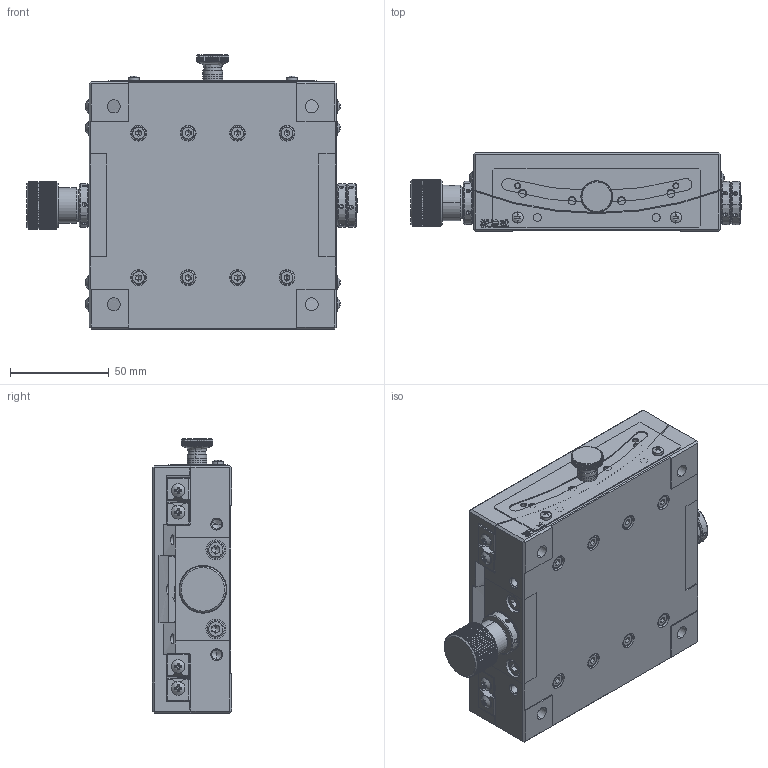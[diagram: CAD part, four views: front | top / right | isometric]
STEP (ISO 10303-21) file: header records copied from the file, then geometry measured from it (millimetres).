
FILE_DESCRIPTION (( 'STEP AP214' ), '1' );
FILE_NAME ('PT-SD3144.STEP', '2022-11-06T06:27:11', ( '' ), ( '' ), 'SwSTEP 2.0', 'SolidWorks 2017', '' );
FILE_SCHEMA (( 'AUTOMOTIVE_DESIGN' ));
Length unit declared in the file: millimetre
Products named in the file (22): PT-SD3144; 钢球5G10b; PT-SD3144-03坶踡蹟譫; 角接触球轴承708C-AC_角接触球轴承708C-AC; PT-SD3144-07忒謫; 滚花高头螺钉M5x8（304）_GB_KNURLED_SCREWS_TYPE1 M5X8-N; PT-SD3144-06恦謫_GearTrax; PT-SD3144-10癹弇え; PT-SD3144-09悵厥殤; PT-SD3144-05恘裝_GearTrax; PT-SD3144-08絳寢; 内六角圆柱头螺钉M4x12（304）_GB_FASTENER_SCREWS_HSHCS M4X10-N; PT-SD3144-02粣創釱; 内六角圆柱头螺钉M4x16（304）_GB_FASTENER_SCREWS_HSHCS M4X10-N; 内六角圆柱头螺钉M5x12（304）_GB_FASTENER_SCREWS_HSHCS M5X10-C; cross recessed pan head screws gb_GB_CROSS_SCREWS_TYPE1 M3X4-4  H type-N; 内六角圆柱头螺钉M4x25（304）_内六角圆柱头螺钉M4x20; 十字大圆头M3x6（304）_JIS B 1111 Truss head screw M3 x 5 --5N; 平垫圈-C级5_GB_FASTENER_WASHER_SMWC 5; PT-SD3144-01菁釱; PT-SD3144-04怢醱; 内六角圆柱头螺钉M4x20（304）_内六角圆柱头螺钉M4x20
Assembly tree (68 placements, depth 2):
  PT-SD3144
    PT-SD3144-01菁釱
    PT-SD3144-02粣創釱  x2
    PT-SD3144-03坶踡蹟譫  x3
    PT-SD3144-04怢醱
    PT-SD3144-05恘裝_GearTrax
    PT-SD3144-06恦謫_GearTrax
    PT-SD3144-07忒謫
    PT-SD3144-08絳寢  x4
    PT-SD3144-09悵厥殤  x2
    PT-SD3144-10癹弇え
    角接触球轴承708C-AC_角接触球轴承708C-AC  x2
    滚花高头螺钉M5x8（304）_GB_KNURLED_SCREWS_TYPE1 M5X8-N
    平垫圈-C级5_GB_FASTENER_WASHER_SMWC 5  x3
    钢球5G10b  x10
    十字大圆头M3x6（304）_JIS B 1111 Truss head screw M3 x 5 --5N  x8
    cross recessed pan head screws gb_GB_CROSS_SCREWS_TYPE1 M3X4-4  H type-N  x2
    内六角圆柱头螺钉M5x12（304）_GB_FASTENER_SCREWS_HSHCS M5X10-C  x4
    内六角圆柱头螺钉M4x12（304）_GB_FASTENER_SCREWS_HSHCS M4X10-N  x8
    内六角圆柱头螺钉M4x16（304）_GB_FASTENER_SCREWS_HSHCS M4X10-N  x4
    内六角圆柱头螺钉M4x20（304）_内六角圆柱头螺钉M4x20  x4
    内六角圆柱头螺钉M4x25（304）_内六角圆柱头螺钉M4x20  x5
Bounding box: 167 x 40 x 138.5 mm (x, y, z)
Volume: 554469.4 mm3; surface area: 188041.1 mm2
Topology: 68 solids, 68 shells, 2888 faces, 7251 edges, 4420 vertices
Faces by surface type: plane 1149, cylinder 900, cone 457, bspline 382
Entity records: 85943 total; most frequent: CARTESIAN_POINT 44114, ORIENTED_EDGE 8790, DIRECTION 8043, EDGE_CURVE 4395, AXIS2_PLACEMENT_3D 3034, VERTEX_POINT 2777, EDGE_LOOP 2010, LINE 1975
